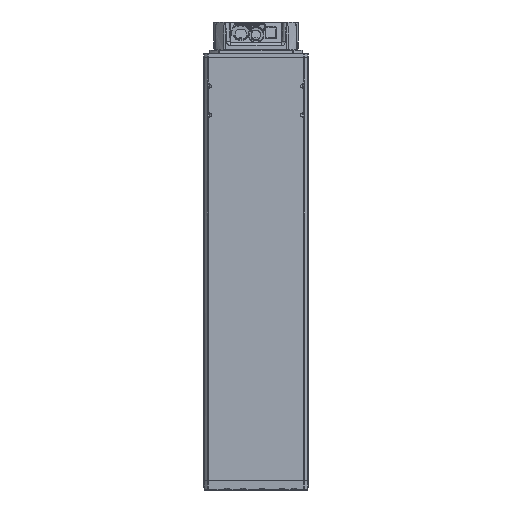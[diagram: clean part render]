
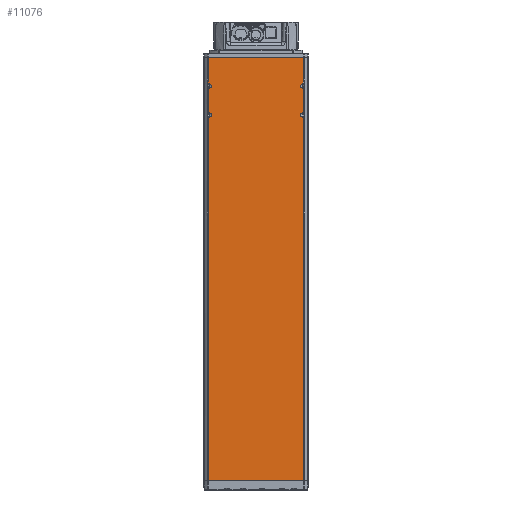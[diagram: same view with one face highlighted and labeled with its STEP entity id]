
A CAD part, left-side view. The second image highlights one B-rep face of the part: STEP entity #11076.
In plain terms, the highlighted planar face has unit normal (-1, 0, 0).
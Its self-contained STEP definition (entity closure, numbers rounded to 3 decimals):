
#8942=DIRECTION('',(0.,0.,1.));
#8943=VECTOR('',#8942,148.207);
#8944=CARTESIAN_POINT('',(-81.5,19.,-74.104));
#8945=LINE('',#8944,#8943);
#9607=CARTESIAN_POINT('',(-81.5,109.,-73.));
#9608=DIRECTION('',(-1.,0.,0.));
#9609=DIRECTION('',(0.,-1.,0.));
#9610=AXIS2_PLACEMENT_3D('',#9607,#9608,#9609);
#9612=CARTESIAN_POINT('',(-81.5,109.,-73.));
#9613=DIRECTION('',(-1.,0.,0.));
#9614=DIRECTION('',(0.,1.,0.));
#9615=AXIS2_PLACEMENT_3D('',#9612,#9613,#9614);
#9617=DIRECTION('',(0.,0.,1.));
#9618=VECTOR('',#9617,148.207);
#9619=CARTESIAN_POINT('',(-81.5,679.,-74.104));
#9620=LINE('',#9619,#9618);
#9621=CARTESIAN_POINT('',(-81.5,109.,73.));
#9622=DIRECTION('',(-1.,0.,0.));
#9623=DIRECTION('',(0.,0.946,0.325));
#9624=AXIS2_PLACEMENT_3D('',#9621,#9622,#9623);
#9626=CARTESIAN_POINT('',(-81.5,109.,73.));
#9627=DIRECTION('',(-1.,0.,0.));
#9628=DIRECTION('',(0.,1.,0.));
#9629=AXIS2_PLACEMENT_3D('',#9626,#9627,#9628);
#9631=CARTESIAN_POINT('',(-81.5,109.,73.));
#9632=DIRECTION('',(-1.,0.,0.));
#9633=DIRECTION('',(0.,-1.,0.));
#9634=AXIS2_PLACEMENT_3D('',#9631,#9632,#9633);
#9636=CARTESIAN_POINT('',(-81.5,64.,73.));
#9637=DIRECTION('',(-1.,0.,0.));
#9638=DIRECTION('',(0.,0.946,0.325));
#9639=AXIS2_PLACEMENT_3D('',#9636,#9637,#9638);
#9641=CARTESIAN_POINT('',(-81.5,64.,73.));
#9642=DIRECTION('',(-1.,0.,0.));
#9643=DIRECTION('',(0.,1.,0.));
#9644=AXIS2_PLACEMENT_3D('',#9641,#9642,#9643);
#9646=CARTESIAN_POINT('',(-81.5,64.,73.));
#9647=DIRECTION('',(-1.,0.,0.));
#9648=DIRECTION('',(0.,-1.,0.));
#9649=AXIS2_PLACEMENT_3D('',#9646,#9647,#9648);
#9651=CARTESIAN_POINT('',(-81.5,64.,-73.));
#9652=DIRECTION('',(-1.,0.,0.));
#9653=DIRECTION('',(0.,-0.946,-0.325));
#9654=AXIS2_PLACEMENT_3D('',#9651,#9652,#9653);
#9656=CARTESIAN_POINT('',(-81.5,64.,-73.));
#9657=DIRECTION('',(-1.,0.,0.));
#9658=DIRECTION('',(0.,-1.,0.));
#9659=AXIS2_PLACEMENT_3D('',#9656,#9657,#9658);
#9661=CARTESIAN_POINT('',(-81.5,64.,-73.));
#9662=DIRECTION('',(-1.,0.,0.));
#9663=DIRECTION('',(0.,1.,0.));
#9664=AXIS2_PLACEMENT_3D('',#9661,#9662,#9663);
#9666=CARTESIAN_POINT('',(-81.5,109.,-73.));
#9667=DIRECTION('',(-1.,0.,0.));
#9668=DIRECTION('',(0.,-0.946,-0.325));
#9669=AXIS2_PLACEMENT_3D('',#9666,#9667,#9668);
#9706=DIRECTION('',(0.,-1.,0.));
#9707=VECTOR('',#9706,38.568);
#9708=CARTESIAN_POINT('',(-81.5,105.784,-74.104));
#9709=LINE('',#9708,#9707);
#9780=DIRECTION('',(0.,-1.,0.));
#9781=VECTOR('',#9780,41.784);
#9782=CARTESIAN_POINT('',(-81.5,60.784,-74.104));
#9783=LINE('',#9782,#9781);
#9845=DIRECTION('',(0.,-1.,0.));
#9846=VECTOR('',#9845,566.784);
#9847=CARTESIAN_POINT('',(-81.5,679.,-74.104));
#9848=LINE('',#9847,#9846);
#9867=DIRECTION('',(0.,1.,0.));
#9868=VECTOR('',#9867,566.784);
#9869=CARTESIAN_POINT('',(-81.5,112.216,74.104));
#9870=LINE('',#9869,#9868);
#9871=CARTESIAN_POINT('',(-81.5,105.784,74.104));
#9884=DIRECTION('',(0.,1.,0.));
#9885=VECTOR('',#9884,38.568);
#9886=CARTESIAN_POINT('',(-81.5,67.216,74.104));
#9887=LINE('',#9886,#9885);
#9954=DIRECTION('',(0.,1.,0.));
#9955=VECTOR('',#9954,41.784);
#9956=CARTESIAN_POINT('',(-81.5,19.,74.104));
#9957=LINE('',#9956,#9955);
#10140=CARTESIAN_POINT('',(-81.5,19.,-74.104));
#10141=VERTEX_POINT('',#10140);
#10142=CARTESIAN_POINT('',(-81.5,19.,74.104));
#10143=VERTEX_POINT('',#10142);
#10262=CARTESIAN_POINT('',(-81.5,679.,74.104));
#10263=VERTEX_POINT('',#10262);
#10264=CARTESIAN_POINT('',(-81.5,679.,-74.104));
#10265=VERTEX_POINT('',#10264);
#10310=CARTESIAN_POINT('',(-81.5,105.6,73.));
#10312=VERTEX_POINT('',#10310);
#10315=CARTESIAN_POINT('',(-81.5,112.4,73.));
#10316=VERTEX_POINT('',#10315);
#10317=CARTESIAN_POINT('',(-81.5,112.216,74.104));
#10318=VERTEX_POINT('',#10317);
#10319=VERTEX_POINT('',#9871);
#10320=CARTESIAN_POINT('',(-81.5,105.6,-73.));
#10321=CARTESIAN_POINT('',(-81.5,112.4,-73.));
#10322=VERTEX_POINT('',#10320);
#10323=VERTEX_POINT('',#10321);
#10324=CARTESIAN_POINT('',(-81.5,112.216,-74.104));
#10325=VERTEX_POINT('',#10324);
#10326=CARTESIAN_POINT('',(-81.5,67.216,74.104));
#10327=VERTEX_POINT('',#10326);
#10328=CARTESIAN_POINT('',(-81.5,67.4,73.));
#10329=VERTEX_POINT('',#10328);
#10330=CARTESIAN_POINT('',(-81.5,60.6,73.));
#10331=VERTEX_POINT('',#10330);
#10332=CARTESIAN_POINT('',(-81.5,60.784,74.104));
#10333=VERTEX_POINT('',#10332);
#10334=CARTESIAN_POINT('',(-81.5,60.784,-74.104));
#10335=VERTEX_POINT('',#10334);
#10336=CARTESIAN_POINT('',(-81.5,60.6,-73.));
#10337=VERTEX_POINT('',#10336);
#10338=CARTESIAN_POINT('',(-81.5,67.4,-73.));
#10339=VERTEX_POINT('',#10338);
#10340=CARTESIAN_POINT('',(-81.5,67.216,-74.104));
#10341=VERTEX_POINT('',#10340);
#10342=CARTESIAN_POINT('',(-81.5,105.784,-74.104));
#10343=VERTEX_POINT('',#10342);
#11034=CARTESIAN_POINT('',(-81.5,19.,-74.104));
#11035=DIRECTION('',(-1.,0.,0.));
#11036=DIRECTION('',(0.,0.,1.));
#11037=AXIS2_PLACEMENT_3D('',#11034,#11035,#11036);
#11038=PLANE('',#11037);
#11040=ORIENTED_EDGE('',*,*,#11039,.T.);
#11042=ORIENTED_EDGE('',*,*,#11041,.T.);
#11044=ORIENTED_EDGE('',*,*,#11043,.F.);
#11045=ORIENTED_EDGE('',*,*,#10864,.T.);
#11047=ORIENTED_EDGE('',*,*,#11046,.F.);
#11048=ORIENTED_EDGE('',*,*,#11008,.T.);
#11049=ORIENTED_EDGE('',*,*,#11026,.T.);
#11050=ORIENTED_EDGE('',*,*,#11015,.T.);
#11052=ORIENTED_EDGE('',*,*,#11051,.F.);
#11054=ORIENTED_EDGE('',*,*,#11053,.T.);
#11056=ORIENTED_EDGE('',*,*,#11055,.T.);
#11058=ORIENTED_EDGE('',*,*,#11057,.T.);
#11060=ORIENTED_EDGE('',*,*,#11059,.F.);
#11061=ORIENTED_EDGE('',*,*,#10417,.F.);
#11063=ORIENTED_EDGE('',*,*,#11062,.F.);
#11065=ORIENTED_EDGE('',*,*,#11064,.T.);
#11067=ORIENTED_EDGE('',*,*,#11066,.T.);
#11069=ORIENTED_EDGE('',*,*,#11068,.T.);
#11071=ORIENTED_EDGE('',*,*,#11070,.F.);
#11073=ORIENTED_EDGE('',*,*,#11072,.T.);
#11074=EDGE_LOOP('',(#11040,#11042,#11044,#11045,#11047,#11048,#11049,#11050,
#11052,#11054,#11056,#11058,#11060,#11061,#11063,#11065,#11067,#11069,#11071,
#11073));
#11075=FACE_OUTER_BOUND('',#11074,.F.);
#9611=CIRCLE('',#9610,3.4);
#9616=CIRCLE('',#9615,3.4);
#9625=CIRCLE('',#9624,3.4);
#9630=CIRCLE('',#9629,3.4);
#9635=CIRCLE('',#9634,3.4);
#9640=CIRCLE('',#9639,3.4);
#9645=CIRCLE('',#9644,3.4);
#9650=CIRCLE('',#9649,3.4);
#9655=CIRCLE('',#9654,3.4);
#9660=CIRCLE('',#9659,3.4);
#9665=CIRCLE('',#9664,3.4);
#9670=CIRCLE('',#9669,3.4);
#10417=EDGE_CURVE('',#10141,#10143,#8945,.T.);
#10864=EDGE_CURVE('',#10265,#10263,#9620,.T.);
#11008=EDGE_CURVE('',#10318,#10316,#9625,.T.);
#11015=EDGE_CURVE('',#10312,#10319,#9635,.T.);
#11026=EDGE_CURVE('',#10316,#10312,#9630,.T.);
#11039=EDGE_CURVE('',#10322,#10323,#9611,.T.);
#11041=EDGE_CURVE('',#10323,#10325,#9616,.T.);
#11043=EDGE_CURVE('',#10265,#10325,#9848,.T.);
#11046=EDGE_CURVE('',#10318,#10263,#9870,.T.);
#11051=EDGE_CURVE('',#10327,#10319,#9887,.T.);
#11053=EDGE_CURVE('',#10327,#10329,#9640,.T.);
#11055=EDGE_CURVE('',#10329,#10331,#9645,.T.);
#11057=EDGE_CURVE('',#10331,#10333,#9650,.T.);
#11059=EDGE_CURVE('',#10143,#10333,#9957,.T.);
#11062=EDGE_CURVE('',#10335,#10141,#9783,.T.);
#11064=EDGE_CURVE('',#10335,#10337,#9655,.T.);
#11066=EDGE_CURVE('',#10337,#10339,#9660,.T.);
#11068=EDGE_CURVE('',#10339,#10341,#9665,.T.);
#11070=EDGE_CURVE('',#10343,#10341,#9709,.T.);
#11072=EDGE_CURVE('',#10343,#10322,#9670,.T.);
#11076=ADVANCED_FACE('',(#11075),#11038,.T.);
